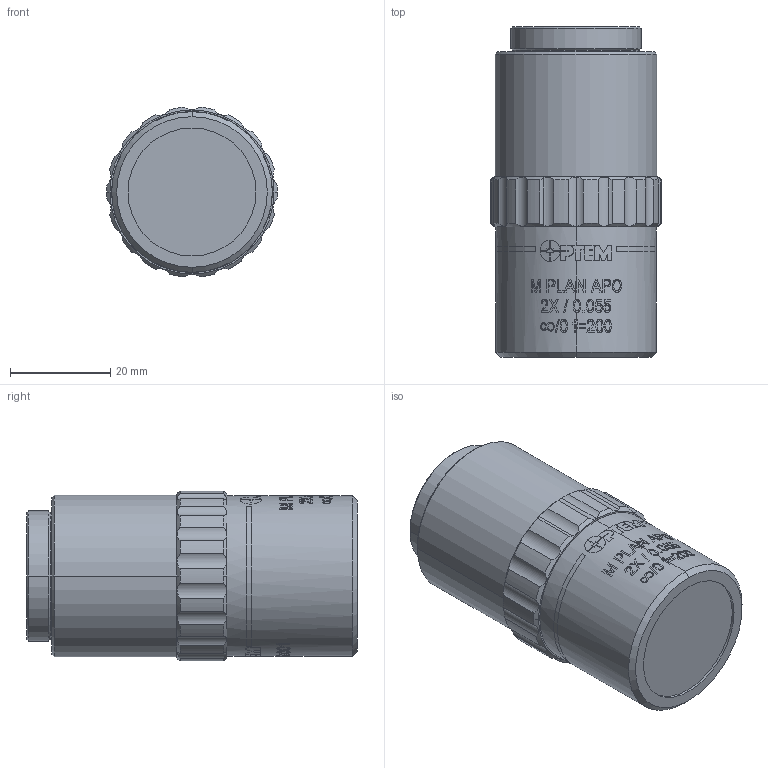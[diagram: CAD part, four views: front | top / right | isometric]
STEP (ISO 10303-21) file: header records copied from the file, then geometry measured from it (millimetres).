
FILE_DESCRIPTION (( 'STEP AP203' ), '1' );
FILE_NAME ('28-21-02-001 OUTLINE.STEP', '2018-06-25T23:44:35', ( '' ), ( '' ), 'SwSTEP 2.0', 'SolidWorks 2017', '' );
FILE_SCHEMA (( 'CONFIG_CONTROL_DESIGN' ));
Length unit declared in the file: millimetre
Products named in the file (1): 28-21-02-001 OUTLINE
Bounding box: 34 x 65.9 x 33.87 mm (x, y, z)
Volume: 51291.5 mm3; surface area: 13796.1 mm2
Topology: 2 solids, 2 shells, 173 faces, 792 edges, 698 vertices
Faces by surface type: cylinder 141, cone 22, plane 10
Entity records: 14952 total; most frequent: CARTESIAN_POINT 8900, ORIENTED_EDGE 1584, EDGE_CURVE 792, DIRECTION 791, VERTEX_POINT 698, B_SPLINE_CURVE_WITH_KNOTS 500, AXIS2_PLACEMENT_3D 325, EDGE_LOOP 250
